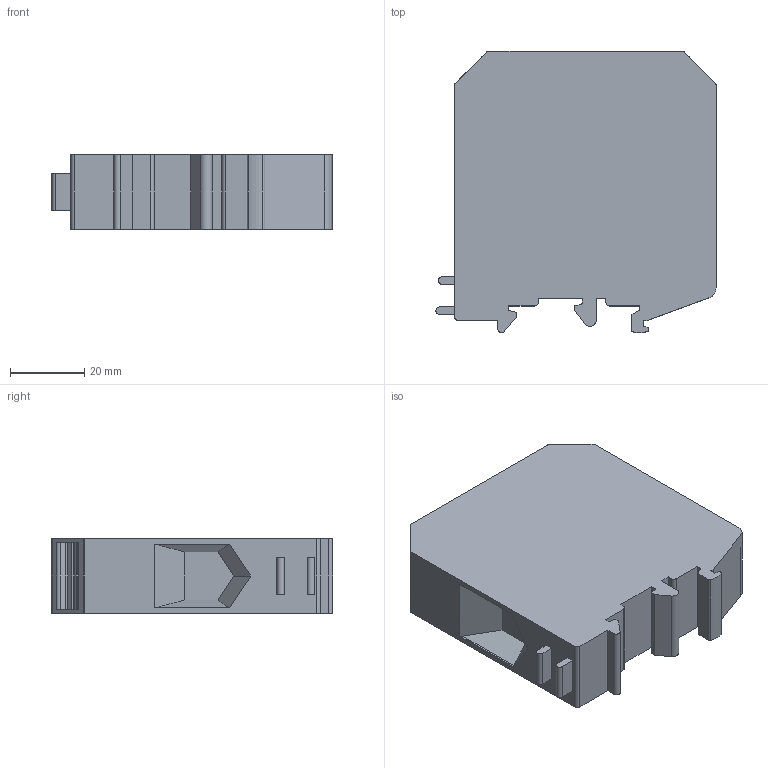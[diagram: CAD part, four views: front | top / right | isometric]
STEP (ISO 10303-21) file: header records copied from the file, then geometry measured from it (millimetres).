
FILE_DESCRIPTION(('Open CASCADE Model'),'2;1');
FILE_NAME('Open CASCADE Shape Model','2022-12-06T15:43:58',('Author'),( 'Open CASCADE'),'Open CASCADE STEP processor 6.5','Open CASCADE 6.5' ,'Unknown');
FILE_SCHEMA(('AUTOMOTIVE_DESIGN { 1 0 10303 214 1 1 1 1 }'));
Length unit declared in the file: millimetre
Products named in the file (129): CADSOFTTOOLS 1; CADSOFTTOOLS 1.1; CADSOFTTOOLS 1.2; CADSOFTTOOLS 1.3; CADSOFTTOOLS 1.4; CADSOFTTOOLS 1.5; CADSOFTTOOLS 1.6; CADSOFTTOOLS 1.7; CADSOFTTOOLS 1.8; CADSOFTTOOLS 1.9; CADSOFTTOOLS 1.10; CADSOFTTOOLS 1.11; CADSOFTTOOLS 1.12; CADSOFTTOOLS 1.13; CADSOFTTOOLS 1.14; CADSOFTTOOLS 1.15; CADSOFTTOOLS 1.16; CADSOFTTOOLS 1.17; CADSOFTTOOLS 1.18; CADSOFTTOOLS 1.19; CADSOFTTOOLS 1.20; CADSOFTTOOLS 1.21; CADSOFTTOOLS 1.22; CADSOFTTOOLS 1.23; CADSOFTTOOLS 1.24; CADSOFTTOOLS 1.25; CADSOFTTOOLS 1.26; CADSOFTTOOLS 1.27; CADSOFTTOOLS 1.28; CADSOFTTOOLS 1.29; CADSOFTTOOLS 1.30; CADSOFTTOOLS 1.31; CADSOFTTOOLS 1.32; CADSOFTTOOLS 1.33; CADSOFTTOOLS 1.34; CADSOFTTOOLS 1.35; CADSOFTTOOLS 1.36; CADSOFTTOOLS 1.37; CADSOFTTOOLS 1.38; CADSOFTTOOLS 1.39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
Assembly tree (128 placements, depth 2):
  CADSOFTTOOLS 1
    CADSOFTTOOLS 1.1
    CADSOFTTOOLS 1.2
    CADSOFTTOOLS 1.3
    CADSOFTTOOLS 1.4
    CADSOFTTOOLS 1.5
    CADSOFTTOOLS 1.6
    CADSOFTTOOLS 1.7
    CADSOFTTOOLS 1.8
    CADSOFTTOOLS 1.9
    CADSOFTTOOLS 1.10
    CADSOFTTOOLS 1.11
    CADSOFTTOOLS 1.12
    CADSOFTTOOLS 1.13
    CADSOFTTOOLS 1.14
    CADSOFTTOOLS 1.15
    CADSOFTTOOLS 1.16
    CADSOFTTOOLS 1.17
    CADSOFTTOOLS 1.18
    CADSOFTTOOLS 1.19
    CADSOFTTOOLS 1.20
    CADSOFTTOOLS 1.21
    CADSOFTTOOLS 1.22
    CADSOFTTOOLS 1.23
    CADSOFTTOOLS 1.24
    CADSOFTTOOLS 1.25
    CADSOFTTOOLS 1.26
    CADSOFTTOOLS 1.27
    CADSOFTTOOLS 1.28
    CADSOFTTOOLS 1.29
    CADSOFTTOOLS 1.30
    CADSOFTTOOLS 1.31
    CADSOFTTOOLS 1.32
    CADSOFTTOOLS 1.33
    CADSOFTTOOLS 1.34
    CADSOFTTOOLS 1.35
    CADSOFTTOOLS 1.36
    CADSOFTTOOLS 1.37
    CADSOFTTOOLS 1.38
    CADSOFTTOOLS 1.39
    CADSOFTTOOLS 1.40
    CADSOFTTOOLS 1.41
    CADSOFTTOOLS 1.42
    CADSOFTTOOLS 1.43
    CADSOFTTOOLS 1.44
    CADSOFTTOOLS 1.45
    CADSOFTTOOLS 1.46
    CADSOFTTOOLS 1.47
    CADSOFTTOOLS 1.48
    CADSOFTTOOLS 1.49
    CADSOFTTOOLS 1.50
    CADSOFTTOOLS 1.51
    CADSOFTTOOLS 1.52
    CADSOFTTOOLS 1.53
    CADSOFTTOOLS 1.54
    CADSOFTTOOLS 1.55
    CADSOFTTOOLS 1.56
    CADSOFTTOOLS 1.57
    CADSOFTTOOLS 1.58
    CADSOFTTOOLS 1.59
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Bounding box: 75.45 x 75.8 x 20 mm (x, y, z)
Surface area: 17592.7 mm2 (no closed solid volume)
Topology: 0 solids, 128 shells, 128 faces, 702 edges, 702 vertices
Faces by surface type: plane 93, cylinder 35
Entity records: 15160 total; most frequent: CARTESIAN_POINT 3584, DIRECTION 1895, LINE 1054, VECTOR 1054, ORIENTED_EDGE 702, EDGE_CURVE 702, VERTEX_POINT 702, SURFACE_CURVE 702
